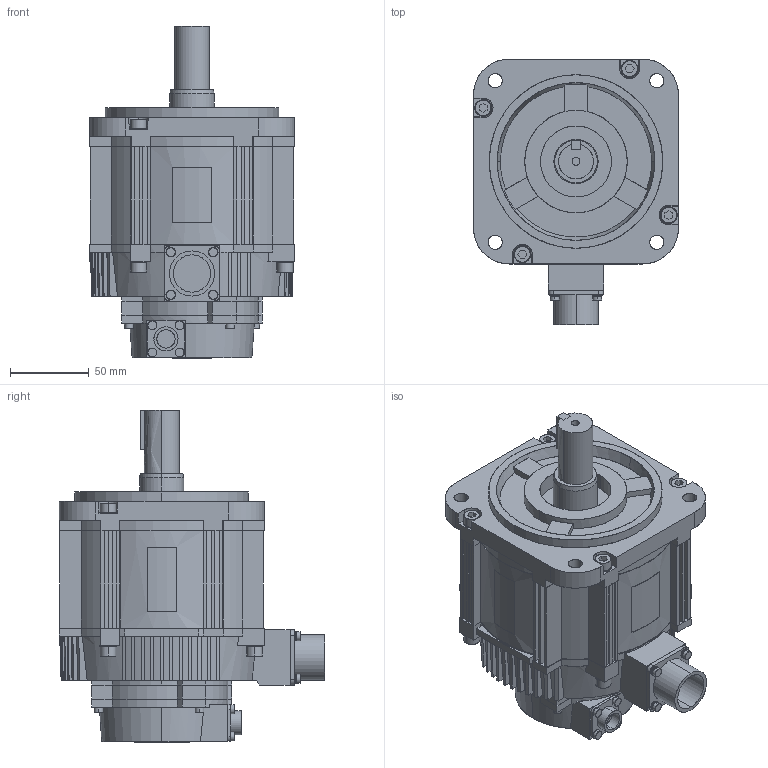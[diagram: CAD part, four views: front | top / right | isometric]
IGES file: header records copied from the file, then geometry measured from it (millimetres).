
Start section: SolidWorks IGES file using analytic representation for surfaces
Global section: file name: C:\YASKAWA\sgmgv_13__a61.IGS; native system: SolidWorks 2006 by SolidWorks Corporation; preprocessor: SolidWorks 2006 by SolidWorks Corporation; author: yamanouchi; date: 090206.151528; units: millimetre
Bounding box: 130 x 168.49 x 210.6 mm (x, y, z)
Surface area: 145342.2 mm2 (no closed solid volume)
Topology: 0 solids, 0 shells, 814 faces, 9216 edges, 9216 vertices
Faces by surface type: bspline 531, revolution 283
